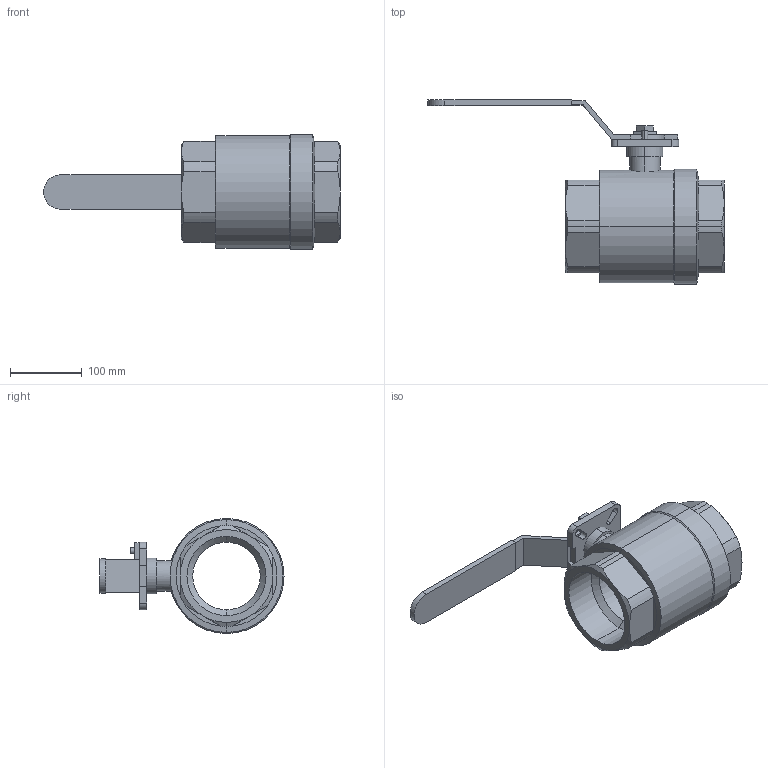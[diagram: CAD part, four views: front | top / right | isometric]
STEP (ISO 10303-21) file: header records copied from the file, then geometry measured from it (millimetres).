
FILE_DESCRIPTION (( 'STEP AP203' ), '1' );
FILE_NAME ('B3.622I100IFVPB0.STEP', '2018-10-02T08:04:51', ( '' ), ( '' ), 'SwSTEP 2.0', 'SolidWorks 2014', '' );
FILE_SCHEMA (( 'CONFIG_CONTROL_DESIGN' ));
Length unit declared in the file: millimetre
Products named in the file (1): B3.622I100IFVPB0
Bounding box: 412.5 x 256 x 160 mm (x, y, z)
Volume: 2341703.4 mm3; surface area: 258783.8 mm2
Topology: 1 solids, 1 shells, 151 faces, 377 edges, 237 vertices
Faces by surface type: plane 79, cylinder 48, cone 24
Entity records: 4811 total; most frequent: CARTESIAN_POINT 1080, DIRECTION 766, ORIENTED_EDGE 754, EDGE_CURVE 377, AXIS2_PLACEMENT_3D 269, VERTEX_POINT 237, LINE 228, VECTOR 228
